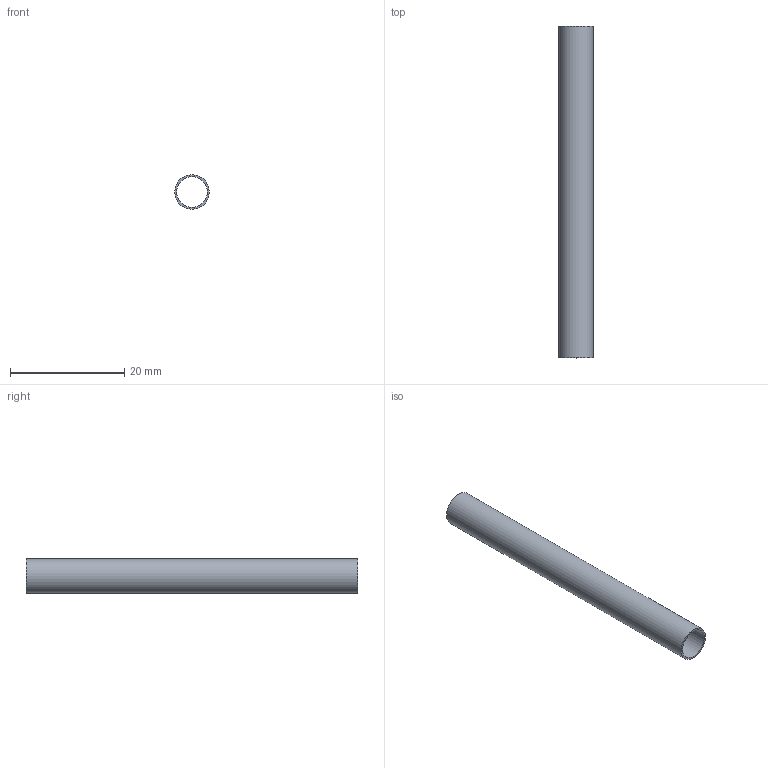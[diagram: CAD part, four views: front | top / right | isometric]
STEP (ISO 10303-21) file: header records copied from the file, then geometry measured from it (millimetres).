
FILE_DESCRIPTION(/* description */ ('STEP AP242 Edition 2','CAx-IF Rec.Pracs.---Representation and Presentation of Product Manufacturing Information (PMI)---4.0---2014-10-13','CAx-IF Rec.Pracs.---3D Tessellated Geometry---0.4---2014-09-14','2;1','CAx-IF Rec.Pracs.---User Defined Attributes---1.5---2016-08-15'),/* implementation_level */ '2;1');
FILE_NAME(/* name */ 'Assem2h - tank (1)',/* time_stamp */ '2025-12-01T14:50:28Z',/* author */ (''),/* organization */ (''),/* preprocessor_version */ 'ST-DEVELOPER v20',/* originating_system */ 'ONSHAPE BY PTC INC, 1.207',/* authorisation */ ' ');
FILE_SCHEMA (('AP242_MANAGED_MODEL_BASED_3D_ENGINEERING_MIM_LF { 1 0 10303 442 3 1 4 }'));
Length unit declared in the file: metre
Products named in the file (1): tank
Bounding box: 6 x 58 x 6 mm (x, y, z)
Volume: 324.9 mm3; surface area: 2083.5 mm2
Topology: 1 solids, 1 shells, 4 faces, 6 edges, 4 vertices
Faces by surface type: cylinder 2, plane 2
Full cylindrical faces by diameter (mm): 5.373 x1, 6 x1
Entity records: 132 total; most frequent: DIRECTION 18, CARTESIAN_POINT 13, AXIS2_PLACEMENT_3D 9, ORIENTED_EDGE 8, EDGE_LOOP 8, FACE_BOUND 8, EDGE_CURVE 4, VERTEX_POINT 4
